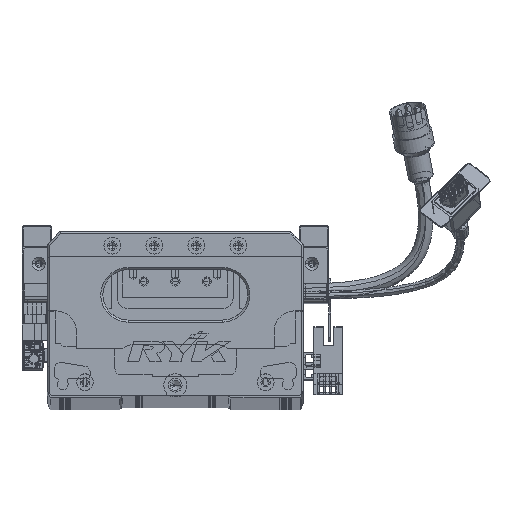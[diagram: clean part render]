
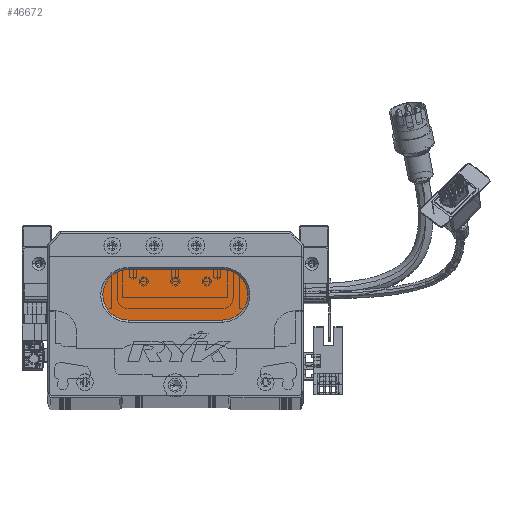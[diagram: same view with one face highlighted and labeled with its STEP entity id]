
A CAD part, top view. The second image highlights one B-rep face of the part: STEP entity #46672.
In plain terms, the highlighted planar face has unit normal (0, 0, 1) as drawn and (0, 0, -1) by its records, which use the part's own axes.
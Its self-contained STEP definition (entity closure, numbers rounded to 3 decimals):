
#2381 = VERTEX_POINT ( 'NONE', #107468 ) ;
#3808 = EDGE_CURVE ( 'NONE', #63215, #47765, #84686, .T. ) ;
#4467 = VECTOR ( 'NONE', #48616, 1000. ) ;
#5030 = CARTESIAN_POINT ( 'NONE',  ( 38.5, 48., 13. ) ) ;
#5482 = DIRECTION ( 'NONE',  ( -1., 0., 0. ) ) ;
#6970 = DIRECTION ( 'NONE',  ( 1., 0., 0. ) ) ;
#13704 = DIRECTION ( 'NONE',  ( 0., 0., -1. ) ) ;
#17818 = DIRECTION ( 'NONE',  ( -1., 0., 0. ) ) ;
#17988 = AXIS2_PLACEMENT_3D ( 'NONE', #5030, #37024, #5482 ) ;
#18567 = EDGE_LOOP ( 'NONE', ( #88797, #41144, #138773, #127336, #58295 ) ) ;
#35656 = DIRECTION ( 'NONE',  ( -1., 0., 0. ) ) ;
#37024 = DIRECTION ( 'NONE',  ( 0., 0., -1. ) ) ;
#40034 = CARTESIAN_POINT ( 'NONE',  ( 83.5, 36., 13. ) ) ;
#41144 = ORIENTED_EDGE ( 'NONE', *, *, #104875, .T. ) ;
#46672 = ADVANCED_FACE ( 'NONE', ( #86025 ), #64525, .T. ) ;
#47765 = VERTEX_POINT ( 'NONE', #98462 ) ;
#48616 = DIRECTION ( 'NONE',  ( -1., 0., 0. ) ) ;
#48810 = DIRECTION ( 'NONE',  ( 0., 0., -1. ) ) ;
#52222 = CARTESIAN_POINT ( 'NONE',  ( 83.5, 36., 13. ) ) ;
#56883 = DIRECTION ( 'NONE',  ( 0., 0., -1. ) ) ;
#58295 = ORIENTED_EDGE ( 'NONE', *, *, #87776, .T. ) ;
#61643 = CARTESIAN_POINT ( 'NONE',  ( 83.5, 48., 13. ) ) ;
#63215 = VERTEX_POINT ( 'NONE', #123450 ) ;
#64525 = PLANE ( 'NONE',  #119085 ) ;
#64977 = CARTESIAN_POINT ( 'NONE',  ( 83.5, 48., 13. ) ) ;
#69311 = VECTOR ( 'NONE', #6970, 1000. ) ;
#76920 = VERTEX_POINT ( 'NONE', #52222 ) ;
#77379 = DIRECTION ( 'NONE',  ( -1., 0., 0. ) ) ;
#84390 = EDGE_CURVE ( 'NONE', #2381, #76920, #121087, .T. ) ;
#84686 = CIRCLE ( 'NONE', #113228, 12. ) ;
#86025 = FACE_OUTER_BOUND ( 'NONE', #18567, .T. ) ;
#87776 = EDGE_CURVE ( 'NONE', #118798, #2381, #132535, .T. ) ;
#88022 = LINE ( 'NONE', #40034, #4467 ) ;
#88797 = ORIENTED_EDGE ( 'NONE', *, *, #84390, .T. ) ;
#96231 = CIRCLE ( 'NONE', #17988, 12. ) ;
#98462 = CARTESIAN_POINT ( 'NONE',  ( 26.5, 48., 13. ) ) ;
#104875 = EDGE_CURVE ( 'NONE', #76920, #63215, #88022, .T. ) ;
#106172 = CARTESIAN_POINT ( 'NONE',  ( 83.5, 60., 13. ) ) ;
#107468 = CARTESIAN_POINT ( 'NONE',  ( 83.5, 60., 13. ) ) ;
#110155 = CARTESIAN_POINT ( 'NONE',  ( 38.5, 60., 13. ) ) ;
#112469 = CARTESIAN_POINT ( 'NONE',  ( 38.5, 48., 13. ) ) ;
#113228 = AXIS2_PLACEMENT_3D ( 'NONE', #112469, #13704, #35656 ) ;
#118798 = VERTEX_POINT ( 'NONE', #110155 ) ;
#119085 = AXIS2_PLACEMENT_3D ( 'NONE', #64977, #56883, #77379 ) ;
#119405 = EDGE_CURVE ( 'NONE', #47765, #118798, #96231, .T. ) ;
#121087 = CIRCLE ( 'NONE', #127138, 12. ) ;
#123450 = CARTESIAN_POINT ( 'NONE',  ( 38.5, 36., 13. ) ) ;
#127138 = AXIS2_PLACEMENT_3D ( 'NONE', #61643, #48810, #17818 ) ;
#127336 = ORIENTED_EDGE ( 'NONE', *, *, #119405, .T. ) ;
#132535 = LINE ( 'NONE', #106172, #69311 ) ;
#138773 = ORIENTED_EDGE ( 'NONE', *, *, #3808, .T. ) ;
